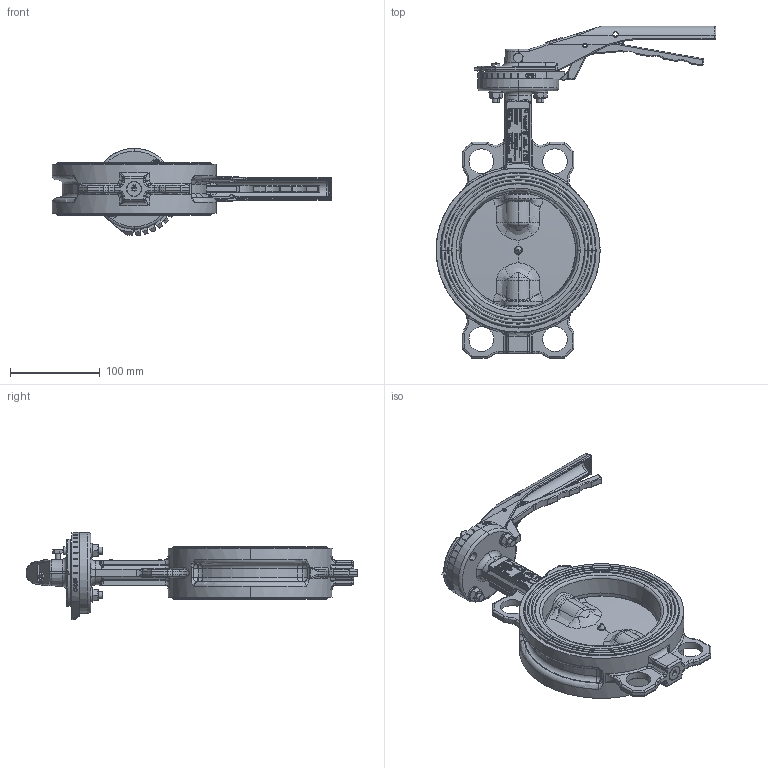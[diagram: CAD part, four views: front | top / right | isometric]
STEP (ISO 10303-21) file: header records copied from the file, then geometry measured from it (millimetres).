
FILE_DESCRIPTION (( 'STEP AP203' ), '1' );
FILE_NAME ('VPN-02 DN125.STEP', '2014-07-16T09:01:22', ( 'FAREX' ), ( '' ), 'SwSTEP 2.0', 'SolidWorks 2011', '' );
FILE_SCHEMA (( 'CONFIG_CONTROL_DESIGN' ));
Products named in the file (1): VPN-02 DN125
Bounding box: 311.25 x 369.5 x 96.92 mm (x, y, z)
Volume: 1117204.2 mm3; surface area: 341832.5 mm2
Topology: 27 solids, 27 shells, 4375 faces, 11262 edges, 7226 vertices
Faces by surface type: plane 1925, bspline 1391, cylinder 619, torus 256, cone 130, sphere 54
Entity records: 199904 total; most frequent: CARTESIAN_POINT 103073, ORIENTED_EDGE 22364, DIRECTION 15794, EDGE_CURVE 11182, VERTEX_POINT 7218, VECTOR 6212, LINE 6212, EDGE_LOOP 4812
